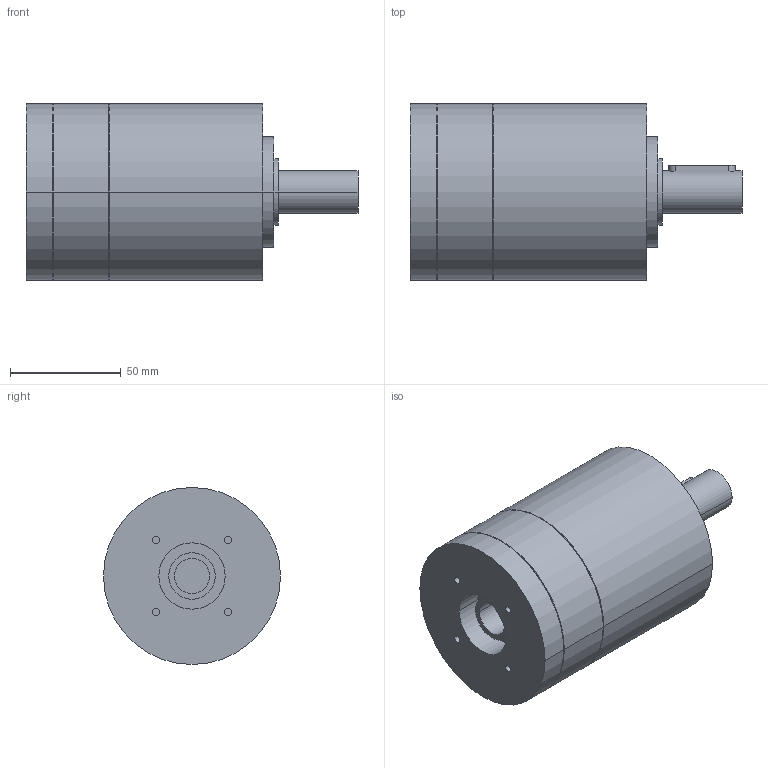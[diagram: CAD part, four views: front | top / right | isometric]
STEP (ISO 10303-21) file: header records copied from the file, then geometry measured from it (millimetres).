
FILE_DESCRIPTION(('CoCreate Modeling STEP Export'),'2;1');
FILE_NAME('GPR100_ig-3-4-5-6_19_B14_15.87_P24.stp','2014-08-26T10:07:52',(''),(''),'CoCreate Modeling STEP processor for AP214 (Solid Model)','CoCreate Modeling 16.00C 25-Feb-2009 (C) Parametric Technology GmbH','');
FILE_SCHEMA(('AUTOMOTIVE_DESIGN { 1 0 10303 214 1 1 1 1 }'));
Length unit declared in the file: millimetre
Products named in the file (2): GPR100_ig-3-4-5-6_19_B14_15.87_P24
Assembly tree (1 placements, depth 2):
  GPR100_ig-3-4-5-6_19_B14_15.87_P24
    GPR100_ig-3-4-5-6_19_B14_15.87_P24
Bounding box: 150 x 80 x 80 mm (x, y, z)
Volume: 543615.8 mm3; surface area: 45853.1 mm2
Topology: 1 solids, 1 shells, 65 faces, 159 edges, 111 vertices
Faces by surface type: cylinder 38, plane 21, cone 6
Entity records: 1641 total; most frequent: ORIENTED_EDGE 314, CARTESIAN_POINT 307, DIRECTION 214, EDGE_CURVE 157, VERTEX_POINT 111, AXIS2_PLACEMENT_3D 82, EDGE_LOOP 82, FACE_OUTER_BOUND 65
